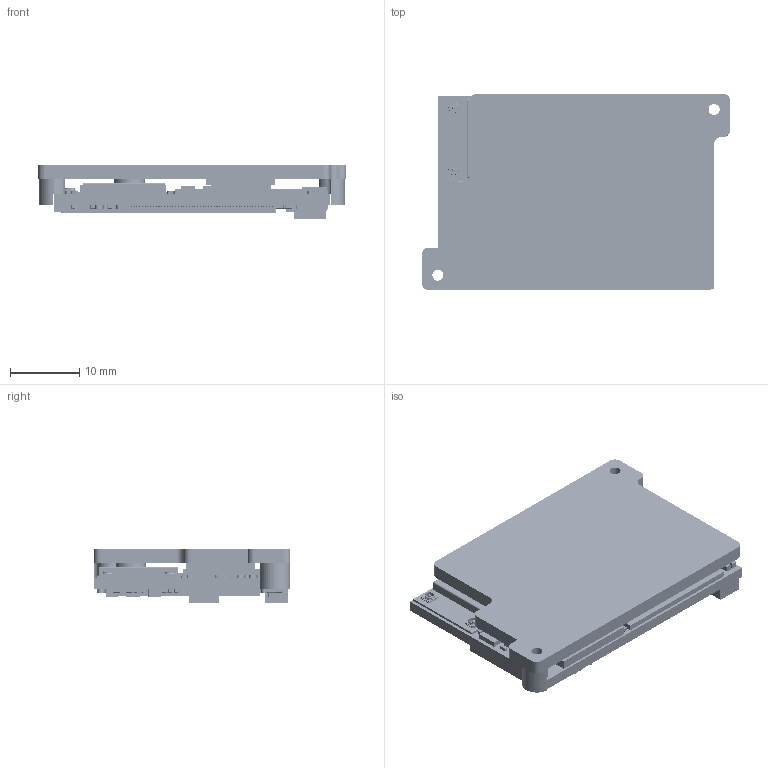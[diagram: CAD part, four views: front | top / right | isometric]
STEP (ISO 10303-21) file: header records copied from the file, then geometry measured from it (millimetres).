
FILE_DESCRIPTION (( 'STEP AP214' ), '1' );
FILE_NAME ('UCM-iMX95 REV 1.0_asm_HS.STEP', '2025-02-11T17:41:31', ( '' ), ( '' ), 'SwSTEP 2.0', 'SolidWorks 2021', '' );
FILE_SCHEMA (( 'AUTOMOTIVE_DESIGN' ));
Length unit declared in the file: millimetre
Products named in the file (60): 163K04000S_RESNET8P0805-compulab_163K04000S; 161C15011S_RC0402_161C15011S; 141B24605I_OSC3225_141B24605I; 161C51111S_RC0402_161C51111S; 161C00005S_RC0402_161C00005S; 161C24003S_RC0402_161C24003S; 111L53200S_BGA-315-12.4x15mm_111L53200S; 161C24911S_RC0402_161C24911S; 123V1R202S_QFN3_5x4_5-24_123V1R202S; 151B104B0S_RC0201_Walsin; 106C20570S_MO-252UAAD_106C20570S; 161C22015S_RC0402_161C22015S; 161B00001S_RC0201_161B00001S; 141B25603I_OSC3225_141B25603I; UCM-iMX95 REV 1.0_asm_HS; 161C10031S_RC0402_161C10031S; 123M0R703S_QFN8x8-56-5x5_5_123M0R703S; 147AR1000S_IND4_3x4_7SM_147AR1000S; 161C10021S-RC0402FR-0710K0; 151B10400S-Samsung_-_CL05A104KO5NNNC; 116B00640S_DFN3.2x2.5-10_116B00640S; 147AR1001S_IND3_2x3_5SM_147AR1001S; 151D15000S_RC0402_151D15000S; 151B475B0S_C0201_151B475B0S; 161C10011S-RC-02K1001FT; 106C20320S_SC70_106C20320S; 161C20001S_RC0402_161C20001S; 115A01154S_BGA-716-0.7mm-body19x19_115A01154S; 131D31540S_SOT-563-6_131D31540S; 147AR4702S_Ind2_5x2x1_2_147AR4702S; 613W01015S-WiFi 6 _M.2 1216_(Sona NX611); 151B10500S-Samsung_-_CL05A104KO5NNNC; 116A00640S_MO-220WHHE-1_116A00640S; 151A22500S_RC0402_151A22500S; 182E10004S-Conn._B2B_2x50 cont._P0.4mm_Plug; 151A47610S_RC0603_151A47610S; 111M33602S_MO-276BA_111M33602S; 161C30001S_RC0402_161C30001S; 106C20000S_SC_70-MAA05A_106C20000S; 161C47511S_RC0402_161C47511S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
Assembly tree (398 placements, depth 2):
  UCM-iMX95 REV 1.0_asm_HS
    UCM-iMX95 REV 1.0_board
    106C20000S_SC_70-MAA05A_106C20000S
    106C20320S_SC70_106C20320S
    106C20570S_MO-252UAAD_106C20570S
    111L53200S_BGA-315-12.4x15mm_111L53200S
    111M33602S_MO-276BA_111M33602S
    111S31000S_MO-229VCED-21
    115A01154S_BGA-716-0.7mm-body19x19_115A01154S
    116A00640S_MO-220WHHE-1_116A00640S
    116B00640S_DFN3.2x2.5-10_116B00640S
    123M0R703S_QFN8x8-56-5x5_5_123M0R703S
    123V1R201S_QFN3_5x4_5-24_123V1R201S
    123V1R202S_QFN3_5x4_5-24_123V1R202S
    131D31540S_SOT-563-6_131D31540S
    139A10260S_LED-0603_139A10260S
    141B24605I_OSC3225_141B24605I
    141B25603I_OSC3225_141B25603I
    141B32301I_XTAL3_2x1_5_141B32301I
    147AR1000S_IND4_3x4_7SM_147AR1000S
    147AR1001S_IND3_2x3_5SM_147AR1001S
    147AR4700S_Ind2_5x2x1_2_147AR4700S  x3
    147AR4702S_Ind2_5x2x1_2_147AR4702S  x2
    147D22100S_FB0402_147D22100S
    147D22101S_FB0603_147D22101S  x3
    151A22500S_RC0402_151A22500S  x22
    151A47610S_RC0603_151A47610S  x9
    151B10400S-Samsung_-_CL05A104KO5NNNC  x6
    151B104B0S_RC0201_Walsin  x32
    151B10500S-Samsung_-_CL05A104KO5NNNC  x7
    151B105B0S_RC0201_151B105B0S  x78
    151B10600S_RC0402_SAMSUNG  x30
    151B22600S_RC0402_151B22600S  x17
    151B47500S_RC0402_151B47500S  x15
    151B475B0S_C0201_151B475B0S  x2
    151C224B0S_RC0201_151C224B0S  x23
    151D15000S_RC0402_151D15000S  x2
    151D18000S_RC0402_151D18000S  x2
    15502R600S_RC0402_15502R600S  x2
    161B00001S_RC0201_161B00001S  x4
    161C00005S_RC0402_161C00005S  x26
    161C10011S-RC-02K1001FT  x9
    161C10021S-RC0402FR-0710K0  x38
    161C10031S_RC0402_161C10031S  x11
    161C12001S_RC0402_161C12001S
    161C15011S_RC0402_161C15011S
    161C20001S_RC0402_161C20001S  x5
    161C22015S_RC0402_161C22015S  x5
    161C24003S_RC0402_161C24003S
    161C24911S_RC0402_161C24911S
    161C30001S_RC0402_161C30001S
    161C33R05S_RC0402_161C33R05S
    161C47511S_RC0402_161C47511S  x6
    161C51111S_RC0402_161C51111S  x4
    163I08822S_RESNET10P1206-compulab_163I08822S
    163K04000S_RESNET8P0805-compulab_163K04000S  x2
    182E10004S-Conn._B2B_2x50 cont._P0.4mm_Plug  x2
    613W01015S-WiFi 6 _M.2 1216_(Sona NX611)
    206B10730-Heat_spreader_UCM-iMX95_rev1.1
    Conn._B2B_2x20 cont._P0.4mm_Plug
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Bounding box: 44.6 x 28.5 x 7.8 mm (x, y, z)
Volume: 5584.6 mm3; surface area: 10199.8 mm2
Topology: 917 solids, 917 shells, 43022 faces, 123248 edges, 78840 vertices
Faces by surface type: plane 33646, cylinder 5956, bspline 3392, cone 28
Entity records: 346675 total; most frequent: CARTESIAN_POINT 50414, ORIENTED_EDGE 46766, DIRECTION 43509, EDGE_CURVE 23383, VECTOR 19975, LINE 19975, VERTEX_POINT 15528, AXIS2_PLACEMENT_3D 11767
